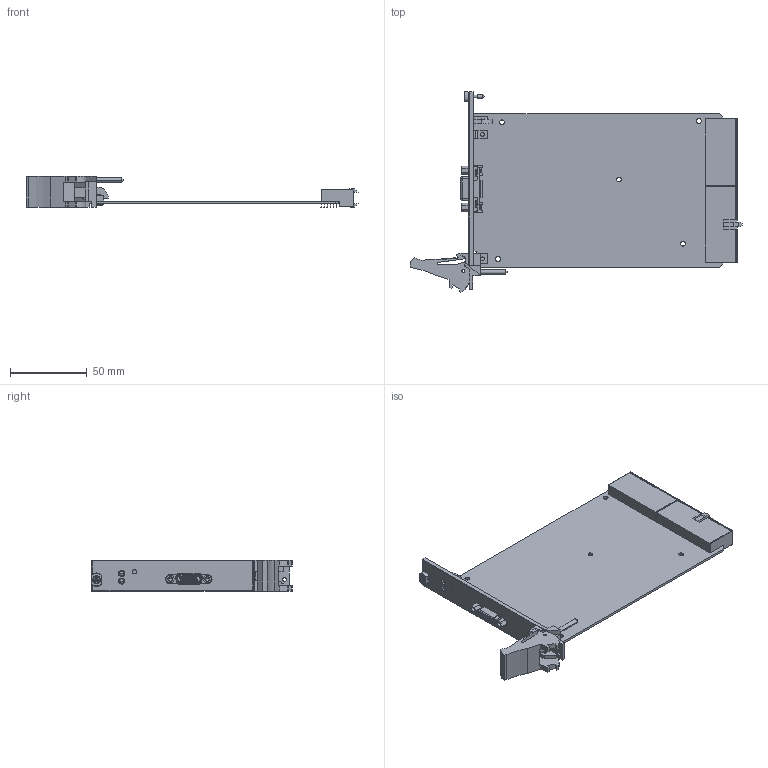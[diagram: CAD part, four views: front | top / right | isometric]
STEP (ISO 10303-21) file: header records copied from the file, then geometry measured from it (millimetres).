
FILE_DESCRIPTION((''),'2;1');
FILE_NAME('CU_PXI-8360','2008-02-11T',('dcrowder'),(''),'PRO/ENGINEER BY PARAMETRIC TECHNOLOGY CORPORATION, 2006080','PRO/ENGINEER BY PARAMETRIC TECHNOLOGY CORPORATION, 2006080','');
FILE_SCHEMA(('CONFIG_CONTROL_DESIGN'));
Products named in the file (1): CU_PXI-8360
Bounding box: 216.08 x 130.5 x 20.19 mm (x, y, z)
Volume: 58840.6 mm3; surface area: 52712.5 mm2
Topology: 1 solids, 1 shells, 2515 faces, 6798 edges, 4394 vertices
Faces by surface type: plane 1619, cylinder 702, extrusion 72, bspline 60, cone 30, torus 22, sphere 10
Entity records: 84833 total; most frequent: CARTESIAN_POINT 21996, ORIENTED_EDGE 13560, DIRECTION 12162, EDGE_CURVE 6780, VECTOR 5096, LINE 5024, VERTEX_POINT 4394, AXIS2_PLACEMENT_3D 3533
